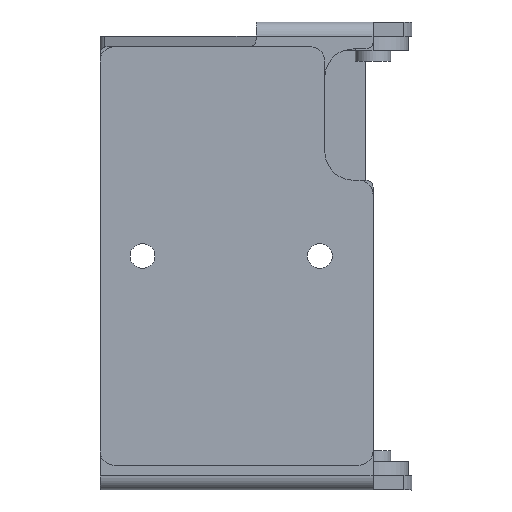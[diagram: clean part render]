
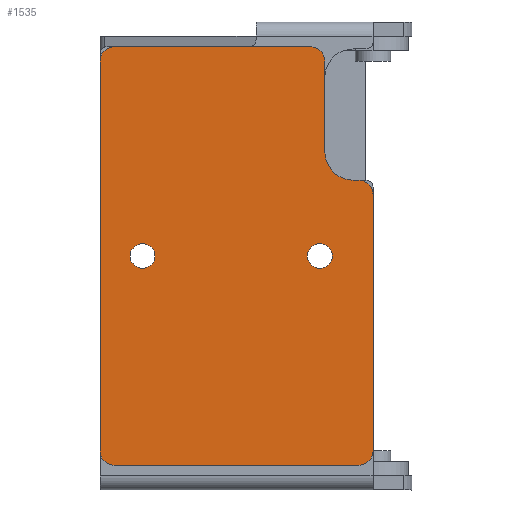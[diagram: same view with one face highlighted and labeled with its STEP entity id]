
A CAD part, left-side view. The second image highlights one B-rep face of the part: STEP entity #1535.
In plain terms, the highlighted planar face has unit normal (-1, 0, 0) as drawn and (0, -1, 0) by its records, which use the part's own axes.
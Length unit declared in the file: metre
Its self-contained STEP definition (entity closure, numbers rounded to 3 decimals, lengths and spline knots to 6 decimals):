
#181=LINE('',#2602,#313);
#182=LINE('',#2606,#314);
#183=LINE('',#2610,#315);
#184=LINE('',#2614,#316);
#185=LINE('',#2618,#317);
#186=LINE('',#2622,#318);
#313=VECTOR('',#2149,1.);
#314=VECTOR('',#2152,1.);
#315=VECTOR('',#2155,1.);
#316=VECTOR('',#2158,1.);
#317=VECTOR('',#2161,1.);
#318=VECTOR('',#2164,1.);
#681=ORIENTED_EDGE('',*,*,#929,.T.);
#682=ORIENTED_EDGE('',*,*,#930,.T.);
#683=ORIENTED_EDGE('',*,*,#931,.F.);
#684=ORIENTED_EDGE('',*,*,#932,.F.);
#685=ORIENTED_EDGE('',*,*,#933,.F.);
#686=ORIENTED_EDGE('',*,*,#934,.F.);
#687=ORIENTED_EDGE('',*,*,#935,.F.);
#688=ORIENTED_EDGE('',*,*,#936,.F.);
#689=ORIENTED_EDGE('',*,*,#937,.T.);
#690=ORIENTED_EDGE('',*,*,#938,.F.);
#691=ORIENTED_EDGE('',*,*,#939,.F.);
#692=ORIENTED_EDGE('',*,*,#940,.F.);
#693=ORIENTED_EDGE('',*,*,#941,.F.);
#694=ORIENTED_EDGE('',*,*,#942,.F.);
#929=EDGE_CURVE('',#1089,#1089,#1171,.T.);
#930=EDGE_CURVE('',#1090,#1090,#1172,.T.);
#931=EDGE_CURVE('',#1091,#1092,#1173,.T.);
#932=EDGE_CURVE('',#1093,#1091,#181,.T.);
#933=EDGE_CURVE('',#1094,#1093,#1174,.T.);
#934=EDGE_CURVE('',#1095,#1094,#182,.T.);
#935=EDGE_CURVE('',#1096,#1095,#1175,.T.);
#936=EDGE_CURVE('',#1097,#1096,#183,.T.);
#937=EDGE_CURVE('',#1097,#1098,#1176,.T.);
#938=EDGE_CURVE('',#1099,#1098,#184,.T.);
#939=EDGE_CURVE('',#1100,#1099,#1177,.T.);
#940=EDGE_CURVE('',#1101,#1100,#185,.T.);
#941=EDGE_CURVE('',#1102,#1101,#1178,.T.);
#942=EDGE_CURVE('',#1092,#1102,#186,.T.);
#1089=VERTEX_POINT('',#2596);
#1090=VERTEX_POINT('',#2598);
#1091=VERTEX_POINT('',#2600);
#1092=VERTEX_POINT('',#2601);
#1093=VERTEX_POINT('',#2603);
#1094=VERTEX_POINT('',#2605);
#1095=VERTEX_POINT('',#2607);
#1096=VERTEX_POINT('',#2609);
#1097=VERTEX_POINT('',#2611);
#1098=VERTEX_POINT('',#2613);
#1099=VERTEX_POINT('',#2615);
#1100=VERTEX_POINT('',#2617);
#1101=VERTEX_POINT('',#2619);
#1102=VERTEX_POINT('',#2621);
#1171=CIRCLE('',#1726,0.00175);
#1172=CIRCLE('',#1727,0.00175);
#1173=CIRCLE('',#1728,0.002);
#1174=CIRCLE('',#1729,0.002);
#1175=CIRCLE('',#1730,0.002);
#1176=CIRCLE('',#1731,0.004);
#1177=CIRCLE('',#1732,0.002);
#1178=CIRCLE('',#1733,0.002);
#1282=EDGE_LOOP('',(#681));
#1283=EDGE_LOOP('',(#682));
#1284=EDGE_LOOP('',(#683,#684,#685,#686,#687,#688,#689,#690,#691,#692,#693,
#694));
#1404=FACE_BOUND('',#1282,.T.);
#1405=FACE_BOUND('',#1283,.T.);
#1406=FACE_BOUND('',#1284,.T.);
#1460=PLANE('',#1725);
#1535=ADVANCED_FACE('',(#1404,#1405,#1406),#1460,.F.);
#1725=AXIS2_PLACEMENT_3D('',#2594,#2141,#2142);
#1726=AXIS2_PLACEMENT_3D('',#2595,#2143,#2144);
#1727=AXIS2_PLACEMENT_3D('',#2597,#2145,#2146);
#1728=AXIS2_PLACEMENT_3D('',#2599,#2147,#2148);
#1729=AXIS2_PLACEMENT_3D('',#2604,#2150,#2151);
#1730=AXIS2_PLACEMENT_3D('',#2608,#2153,#2154);
#1731=AXIS2_PLACEMENT_3D('',#2612,#2156,#2157);
#1732=AXIS2_PLACEMENT_3D('',#2616,#2159,#2160);
#1733=AXIS2_PLACEMENT_3D('',#2620,#2162,#2163);
#2141=DIRECTION('',(0.,1.,0.));
#2142=DIRECTION('',(0.,0.,1.));
#2143=DIRECTION('',(0.,1.,0.));
#2144=DIRECTION('',(1.,0.,0.));
#2145=DIRECTION('',(0.,1.,0.));
#2146=DIRECTION('',(1.,0.,0.));
#2147=DIRECTION('',(0.,1.,0.));
#2148=DIRECTION('',(1.,0.,0.));
#2149=DIRECTION('',(1.,0.,0.));
#2150=DIRECTION('',(0.,1.,0.));
#2151=DIRECTION('',(1.,0.,0.));
#2152=DIRECTION('',(0.,0.,1.));
#2153=DIRECTION('',(0.,1.,0.));
#2154=DIRECTION('',(1.,0.,0.));
#2155=DIRECTION('',(-1.,0.,0.));
#2156=DIRECTION('',(0.,1.,0.));
#2157=DIRECTION('',(1.,0.,0.));
#2158=DIRECTION('',(0.,0.,1.));
#2159=DIRECTION('',(0.,1.,0.));
#2160=DIRECTION('',(1.,0.,0.));
#2161=DIRECTION('',(-1.,0.,0.));
#2162=DIRECTION('',(0.,1.,0.));
#2163=DIRECTION('',(1.,0.,0.));
#2164=DIRECTION('',(0.,0.,-1.));
#2594=CARTESIAN_POINT('',(0.,0.,0.));
#2595=CARTESIAN_POINT('',(-0.01175,0.,0.));
#2596=CARTESIAN_POINT('',(-0.01,0.,0.));
#2597=CARTESIAN_POINT('',(0.01325,0.,0.));
#2598=CARTESIAN_POINT('',(0.015,0.,0.));
#2599=CARTESIAN_POINT('',(0.01725,0.,0.0275));
#2600=CARTESIAN_POINT('',(0.01725,0.,0.0295));
#2601=CARTESIAN_POINT('',(0.01925,0.,0.0275));
#2602=CARTESIAN_POINT('',(0.,0.,0.0295));
#2603=CARTESIAN_POINT('',(-0.01725,0.,0.0295));
#2604=CARTESIAN_POINT('',(-0.01725,0.,0.0275));
#2605=CARTESIAN_POINT('',(-0.01925,0.,0.0275));
#2606=CARTESIAN_POINT('',(-0.01925,0.,0.0094));
#2607=CARTESIAN_POINT('',(-0.01925,0.,-0.0087));
#2608=CARTESIAN_POINT('',(-0.01725,0.,-0.0087));
#2609=CARTESIAN_POINT('',(-0.01725,0.,-0.0107));
#2610=CARTESIAN_POINT('',(-0.01685,0.,-0.0107));
#2611=CARTESIAN_POINT('',(-0.01645,0.,-0.0107));
#2612=CARTESIAN_POINT('',(-0.01645,0.,-0.0147));
#2613=CARTESIAN_POINT('',(-0.01245,0.,-0.0147));
#2614=CARTESIAN_POINT('',(-0.01245,0.,-0.0211));
#2615=CARTESIAN_POINT('',(-0.01245,0.,-0.0275));
#2616=CARTESIAN_POINT('',(-0.01045,0.,-0.0275));
#2617=CARTESIAN_POINT('',(-0.01045,0.,-0.0295));
#2618=CARTESIAN_POINT('',(0.0034,0.,-0.0295));
#2619=CARTESIAN_POINT('',(0.01725,0.,-0.0295));
#2620=CARTESIAN_POINT('',(0.01725,0.,-0.0275));
#2621=CARTESIAN_POINT('',(0.01925,0.,-0.0275));
#2622=CARTESIAN_POINT('',(0.01925,0.,0.));
